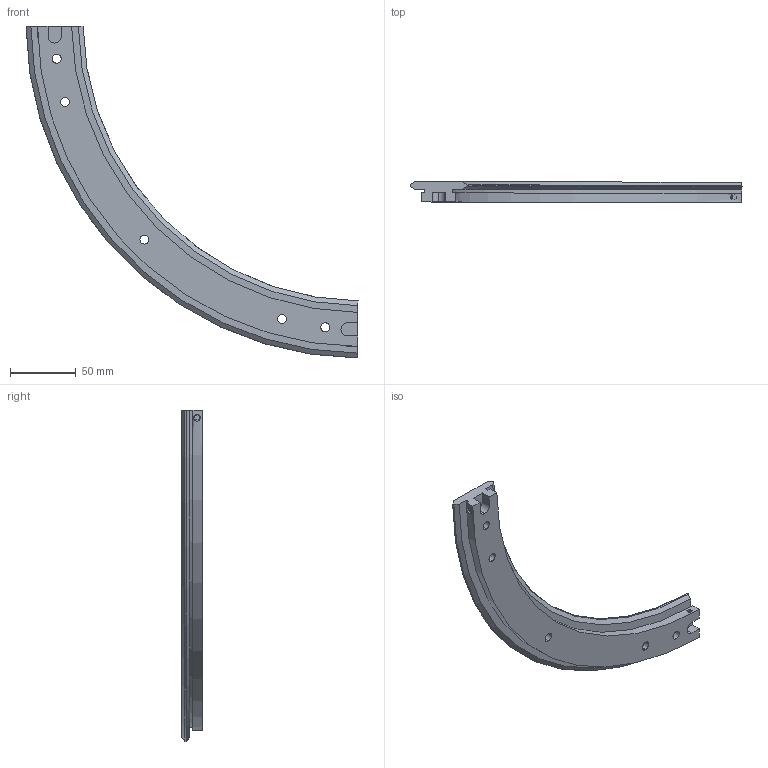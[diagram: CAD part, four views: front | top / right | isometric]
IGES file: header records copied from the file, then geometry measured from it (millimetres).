
Start section: 3D InterOp IGES (v. 2019 1.0.2), Spatial Corp. Copyright (c) 1999-2017.
Global section: file name: TR44 468 R90.igs; native system: Spatial Corp.; preprocessor: 3D InterOp GENERIC/IGES 3.0; author: Noname; organization: Noname; date: 20220628.092403; units: millimetre
Bounding box: 253.29 x 15.5 x 253.29 mm (x, y, z)
Surface area: 47105.2 mm2 (no closed solid volume)
Topology: 0 solids, 0 shells, 92 faces, 462 edges, 462 vertices
Faces by surface type: extrusion 51, revolution 41
